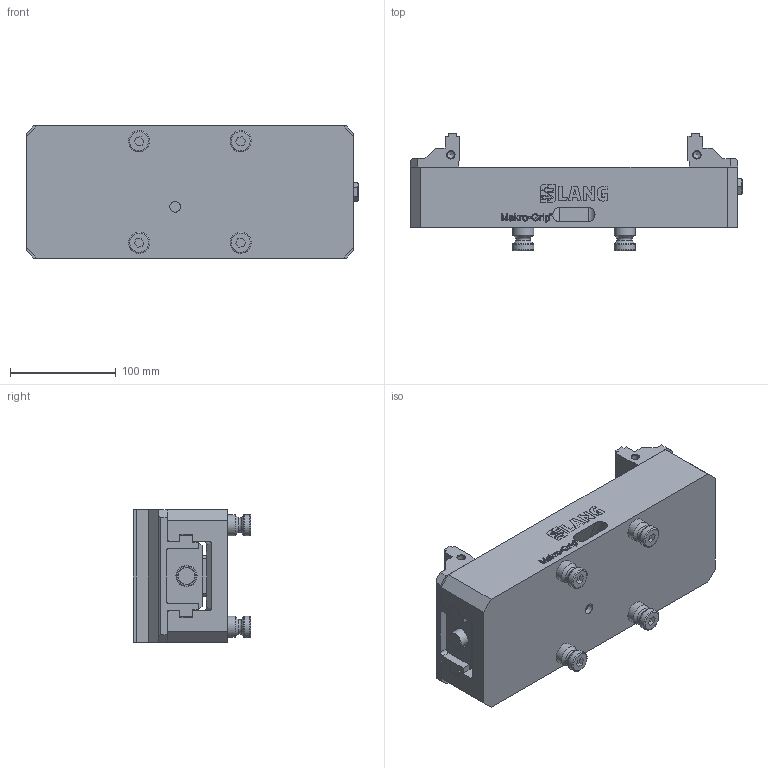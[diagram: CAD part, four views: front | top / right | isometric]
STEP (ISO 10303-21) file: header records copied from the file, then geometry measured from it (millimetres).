
FILE_DESCRIPTION (( 'STEP AP214' ), '1' );
FILE_NAME ('48305-125.STEP', '2020-02-07T14:14:21', ( '' ), ( '' ), 'SwSTEP 2.0', 'SolidWorks 2019', '' );
FILE_SCHEMA (( 'AUTOMOTIVE_DESIGN' ));
Length unit declared in the file: millimetre
Products named in the file (3): 48305-125; Makro-Grip_48305-125; 48125-2520
Assembly tree (3 placements, depth 2):
  48305-125
    Makro-Grip_48305-125
    48125-2520  x2
Bounding box: 314 x 111.01 x 125.24 mm (x, y, z)
Volume: 1789948.6 mm3; surface area: 263644.6 mm2
Topology: 50 solids, 50 shells, 910 faces, 2312 edges, 1519 vertices
Faces by surface type: plane 625, bspline 192, cylinder 54, cone 27, torus 12
Full cylindrical faces by diameter (mm): 6.8 x4, 8.5 x4, 10 x1, 16 x8, 16.5 x1, 20 x12
Entity records: 42620 total; most frequent: CARTESIAN_POINT 13835, ORIENTED_EDGE 4148, DIRECTION 3093, EDGE_CURVE 2074, LINE 1567, VECTOR 1567, VERTEX_POINT 1401, EDGE_LOOP 959
